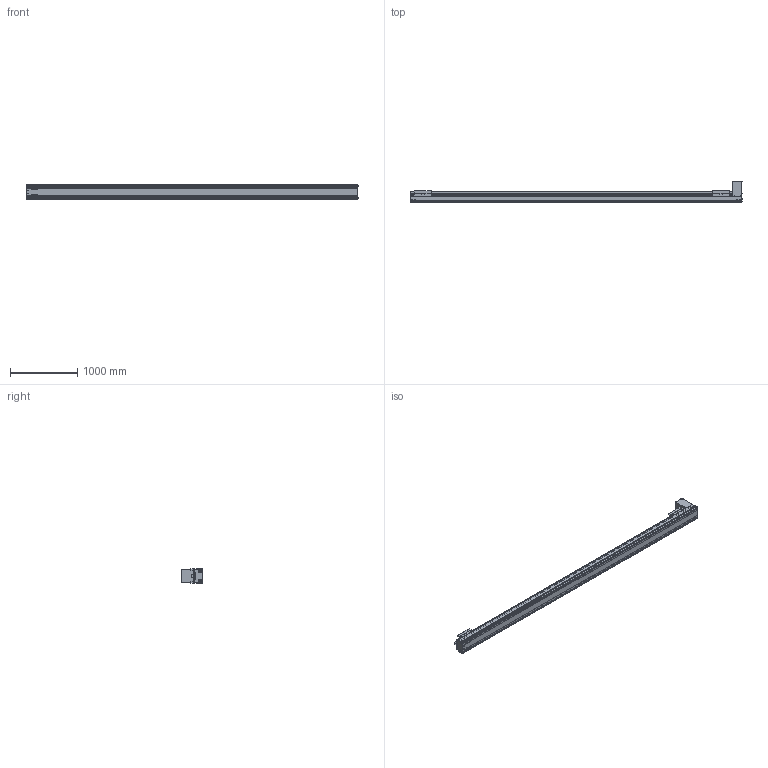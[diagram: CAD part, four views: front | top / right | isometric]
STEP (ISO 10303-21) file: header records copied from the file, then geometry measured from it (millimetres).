
FILE_DESCRIPTION((''),'2;1');
FILE_NAME('BE60J-BT-M19N-X45_IGS_PRT','2017-06-18T',(' '),(''),'PRO/ENGINEER BY PARAMETRIC TECHNOLOGY CORPORATION, 2015030','PRO/ENGINEER BY PARAMETRIC TECHNOLOGY CORPORATION, 2015030','');
FILE_SCHEMA(('CONFIG_CONTROL_DESIGN'));
Products named in the file (1): BE60J-BT-M19N-X45_IGS_PRT
Bounding box: 4954.4 x 327.5 x 214 mm (x, y, z)
Volume: 2396126.7 mm3; surface area: 11872267.6 mm2
Topology: 13 solids, 386 shells, 3418 faces, 10006 edges, 6655 vertices
Faces by surface type: cylinder 1942, plane 1096, cone 284, sphere 48, torus 48
Entity records: 117992 total; most frequent: CARTESIAN_POINT 28260, DIRECTION 18484, ORIENTED_EDGE 17696, EDGE_CURVE 9716, AXIS2_PLACEMENT_3D 7118, VERTEX_POINT 6646, EDGE_LOOP 4408, VECTOR 4248
